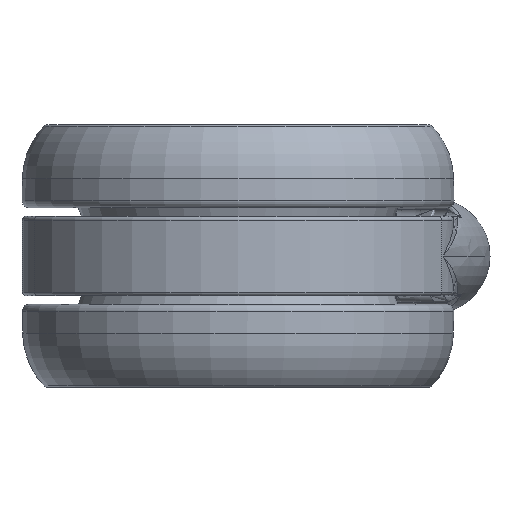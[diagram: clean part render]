
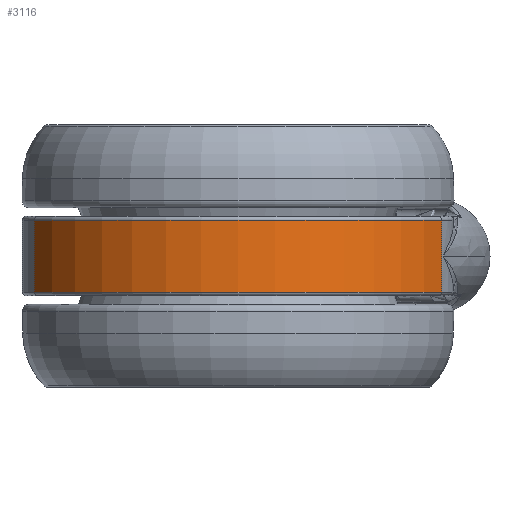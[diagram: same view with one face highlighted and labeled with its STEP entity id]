
A CAD part, front view. The second image highlights one B-rep face of the part: STEP entity #3116.
In plain terms, the highlighted cylindrical face has radius 30.924 mm (diameter 61.847 mm), a partial arc.
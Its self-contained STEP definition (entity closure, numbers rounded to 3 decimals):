
#819 = DIRECTION ( 'NONE',  ( -1., 0., 0. ) ) ;
#940 = LINE ( 'NONE', #13045, #4227 ) ;
#1553 = DIRECTION ( 'NONE',  ( -1., 0., 0. ) ) ;
#1960 = EDGE_CURVE ( 'NONE', #8280, #10557, #940, .T. ) ;
#3116 = ADVANCED_FACE ( 'NONE', ( #3844 ), #5884, .T. ) ;
#3119 = CARTESIAN_POINT ( 'NONE',  ( 0., 3.924, 5. ) ) ;
#3844 = FACE_OUTER_BOUND ( 'NONE', #6567, .T. ) ;
#4167 = CARTESIAN_POINT ( 'NONE',  ( -28.273, -8.602, 5. ) ) ;
#4200 = VERTEX_POINT ( 'NONE', #7517 ) ;
#4227 = VECTOR ( 'NONE', #4790, 1000. ) ;
#4246 = AXIS2_PLACEMENT_3D ( 'NONE', #8994, #12924, #819 ) ;
#4505 = ORIENTED_EDGE ( 'NONE', *, *, #5202, .T. ) ;
#4751 = CARTESIAN_POINT ( 'NONE',  ( 28.273, -8.602, 12.5 ) ) ;
#4790 = DIRECTION ( 'NONE',  ( 0., 0., -1. ) ) ;
#5202 = EDGE_CURVE ( 'NONE', #4200, #8280, #10098, .T. ) ;
#5539 = EDGE_CURVE ( 'NONE', #8356, #4200, #13009, .T. ) ;
#5884 = CYLINDRICAL_SURFACE ( 'NONE', #4246, 30.924 ) ;
#6275 = AXIS2_PLACEMENT_3D ( 'NONE', #10887, #8781, #1553 ) ;
#6567 = EDGE_LOOP ( 'NONE', ( #6716, #12993, #10381, #4505 ) ) ;
#6716 = ORIENTED_EDGE ( 'NONE', *, *, #1960, .T. ) ;
#6794 = CARTESIAN_POINT ( 'NONE',  ( -28.273, -8.602, -5. ) ) ;
#7255 = DIRECTION ( 'NONE',  ( 1., 0., 0. ) ) ;
#7517 = CARTESIAN_POINT ( 'NONE',  ( 28.273, -8.602, 5. ) ) ;
#7760 = CARTESIAN_POINT ( 'NONE',  ( 28.273, -8.602, -5. ) ) ;
#8280 = VERTEX_POINT ( 'NONE', #4167 ) ;
#8356 = VERTEX_POINT ( 'NONE', #7760 ) ;
#8781 = DIRECTION ( 'NONE',  ( 0., 0., 1. ) ) ;
#8994 = CARTESIAN_POINT ( 'NONE',  ( 0., 3.924, 12.5 ) ) ;
#9215 = EDGE_CURVE ( 'NONE', #10557, #8356, #10603, .T. ) ;
#9695 = VECTOR ( 'NONE', #11978, 1000. ) ;
#10098 = CIRCLE ( 'NONE', #13167, 30.924 ) ;
#10381 = ORIENTED_EDGE ( 'NONE', *, *, #5539, .T. ) ;
#10557 = VERTEX_POINT ( 'NONE', #6794 ) ;
#10603 = CIRCLE ( 'NONE', #6275, 30.924 ) ;
#10887 = CARTESIAN_POINT ( 'NONE',  ( 0., 3.924, -5. ) ) ;
#11978 = DIRECTION ( 'NONE',  ( 0., 0., 1. ) ) ;
#12924 = DIRECTION ( 'NONE',  ( 0., 0., -1. ) ) ;
#12993 = ORIENTED_EDGE ( 'NONE', *, *, #9215, .T. ) ;
#13009 = LINE ( 'NONE', #4751, #9695 ) ;
#13045 = CARTESIAN_POINT ( 'NONE',  ( -28.273, -8.602, 12.5 ) ) ;
#13167 = AXIS2_PLACEMENT_3D ( 'NONE', #3119, #13293, #7255 ) ;
#13293 = DIRECTION ( 'NONE',  ( 0., 0., -1. ) ) ;
